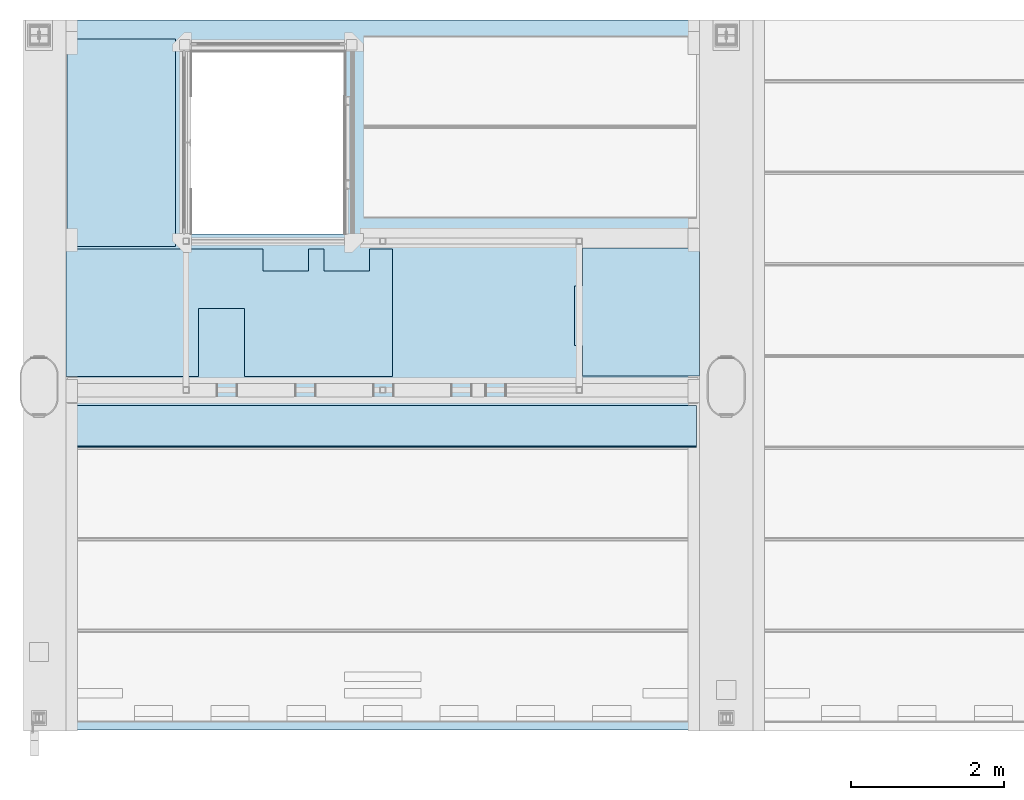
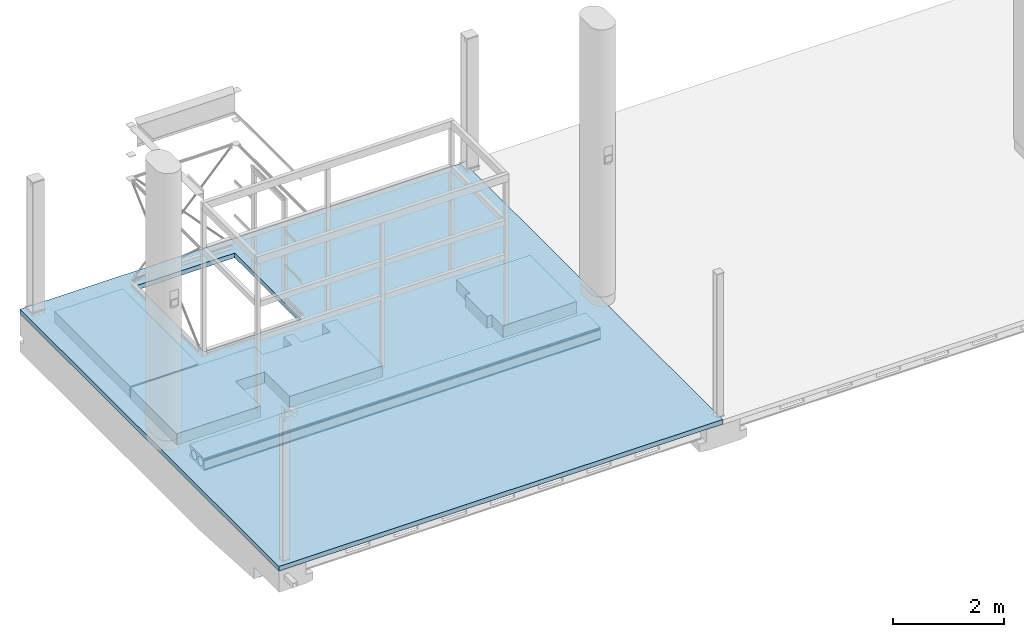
# One storey, part 14 of 15: 5 slabs.
"""IFC2X3 building model written with IfcOpenShell, lengths in millimetres."""

from ifc_helpers import new_model, entity, si_unit, converted_unit, derived_unit, direction, frame, origin_with_axes, place, context, subcontext, project, spatial, faceted_brep, material, type_object, element, save


model = new_model("IFC2X3")

# Units and contexts
model_context = context("Model", 3, precision=0.01, world=frame((0.0, 4.29681676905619e-09, 0.0)), true_north=direction((4.01073788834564e-13, 1.0)))
plan_context = context("Plan", 3, precision=0.01, world=frame((0.0, 4.29681676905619e-09, 0.0)), true_north=direction((4.01073788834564e-13, 1.0)))
body_context = subcontext(model_context, "Body", "Model", "MODEL_VIEW")
ifc_project = project(units=[converted_unit("PLANEANGLEUNIT", "DEGREE", entity("IfcPositiveLengthMeasure", 0.0174532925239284), si_unit("PLANEANGLEUNIT", "RADIAN"), dimensions=[0, 0, 0, 0, 0, 0, 0]), si_unit("AREAUNIT", "SQUARE_METRE"), si_unit("LENGTHUNIT", "METRE", prefix="MILLI"), si_unit("MASSUNIT", "GRAM", prefix="KILO"), si_unit("POWERUNIT", "WATT"), si_unit("PRESSUREUNIT", "PASCAL", prefix="KILO"), si_unit("FORCEUNIT", "NEWTON", prefix="KILO"), si_unit("ELECTRICVOLTAGEUNIT", "VOLT"), si_unit("ELECTRICCURRENTUNIT", "AMPERE"), si_unit("THERMODYNAMICTEMPERATUREUNIT", "DEGREE_CELSIUS"), si_unit("TIMEUNIT", "SECOND"), si_unit("VOLUMEUNIT", "CUBIC_METRE"), derived_unit("LINEARVELOCITYUNIT", [(si_unit("LENGTHUNIT", "METRE"), 1), (si_unit("TIMEUNIT", "SECOND"), -1)]), derived_unit("VOLUMETRICFLOWRATEUNIT", [(si_unit("VOLUMEUNIT", "CUBIC_METRE"), 1), (si_unit("TIMEUNIT", "SECOND"), -1)]), derived_unit("THERMALTRANSMITTANCEUNIT", [(si_unit("POWERUNIT", "WATT"), 1), (si_unit("THERMODYNAMICTEMPERATUREUNIT", "KELVIN"), -1), (si_unit("AREAUNIT", "SQUARE_METRE"), -1)]), derived_unit("SOUNDPRESSUREUNIT", [(si_unit("PRESSUREUNIT", "PASCAL"), 1)])], contexts=[model_context, plan_context])

# Site, building, storey
site_placement = place(None, frame((0.0, -4.29681676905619e-09, 0.0), z_axis=(0.0, 0.0, 1.0), x_axis=(1.0, 0.0, 0.0)))
site = spatial("IfcSite", under=ifc_project, at=site_placement, Name="Gardermoen", CompositionType="ELEMENT")
building_placement = place(site_placement, frame((0.0, 4.29681676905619e-09, 0.0), z_axis=(0.0, 0.0, 1.0), x_axis=(1.0, 0.0, 0.0)))
building = spatial("IfcBuilding", under=site, at=building_placement, Name="TG", CompositionType="ELEMENT")
storey_placement = place(building_placement, origin_with_axes())
storey = spatial("IfcBuildingStorey", under=building, at=storey_placement, Name="F", CompositionType="ELEMENT", Elevation=0.0)

# Slabs
ifc_material = material(Name="CONCRETE/C45/55")
slab_type_1 = type_object("IfcSlabType", Name="HD265", PredefinedType="NOTDEFINED")
slab_1_placement = place(storey_placement, frame((330610.002186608, 462499.991047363, 209897.5), z_axis=(0.0, 0.0, 1.0), x_axis=(-1.0, 0.0, 0.0)))
element("IfcSlab", 1, at=slab_1_placement, inside=storey, type_object=slab_type_1, material=ifc_material, Name="HULLDEKKE", ObjectType="HD265", PredefinedType="FLOOR", context=body_context, shape_type="Brep", body=[
    faceted_brep([(0.0, 50.5927046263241, 77.437899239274), (8220.0, 50.5927046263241, 77.437899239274), (8220.0, 49.9899041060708, 77.7970903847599), (0.0, 49.9899041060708, 77.7970903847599), (0.0, 56.8146759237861, 72.9954971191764), (8220.0, 56.8146759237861, 72.9954971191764), (0.0, 62.6485453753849, 68.0544617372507), (8220.0, 62.6485453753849, 68.0544617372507), (0.0, 68.0544617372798, 62.6485453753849), (8220.0, 68.0544617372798, 62.6485453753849), (0.0, 72.9954971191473, 56.8146759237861), (8220.0, 72.9954971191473, 56.8146759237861), (0.0, 77.4378992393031, 50.5927046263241), (8220.0, 77.4378992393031, 50.5927046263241), (0.0, 81.3513219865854, 44.0251338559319), (8220.0, 81.3513219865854, 44.0251338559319), (0.0, 84.7090327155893, 37.1568267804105), (8220.0, 84.7090327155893, 37.1568267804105), (0.0, 87.4880948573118, 30.0347009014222), (8220.0, 87.4880948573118, 30.0347009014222), (0.0, 89.6695245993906, 22.7074075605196), (8220.0, 89.6695245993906, 22.7074075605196), (0.0, 91.2384205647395, 15.2249996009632), (8220.0, 91.2384205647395, 15.2249996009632), (0.0, 92.1840656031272, 7.63858945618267), (8220.0, 92.1840656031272, 7.63858945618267), (0.0, 92.5, 0.0), (8220.0, 92.5, 0.0), (0.0, 92.1840656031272, -7.63858945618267), (8220.0, 92.1840656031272, -7.63858945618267), (0.0, 91.2384205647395, -15.2249996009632), (8220.0, 91.2384205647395, -15.2249996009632), (0.0, 89.6695245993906, -22.7074075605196), (8220.0, 89.6695245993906, -22.7074075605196), (0.0, 87.4880948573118, -30.0347009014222), (8220.0, 87.4880948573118, -30.0347009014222), (0.0, 84.7090327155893, -37.1568267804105), (8220.0, 84.7090327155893, -37.1568267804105), (0.0, 81.3513219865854, -44.0251338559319), (8220.0, 81.3513219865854, -44.0251338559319), (0.0, 77.4378992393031, -50.5927046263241), (8220.0, 77.4378992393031, -50.5927046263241), (0.0, 72.9954971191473, -56.8146759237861), (8220.0, 72.9954971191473, -56.8146759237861), (0.0, 68.0544617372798, -62.6485453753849), (8220.0, 68.0544617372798, -62.6485453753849), (0.0, 62.6485453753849, -68.0544617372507), (8220.0, 62.6485453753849, -68.0544617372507), (0.0, 56.8146759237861, -72.9954971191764), (8220.0, 56.8146759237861, -72.9954971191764), (0.0, 50.5927046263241, -77.437899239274), (8220.0, 50.5927046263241, -77.437899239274), (0.0, 49.9899041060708, -77.7970903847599), (8220.0, 49.9899041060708, -77.7970903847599), (0.0, 49.9899041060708, -132.5), (8220.0, 49.9899041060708, -132.5), (0.0, 583.380004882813, -132.5), (8220.0, 583.380004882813, -132.5), (0.0, 600.0, -122.5), (8220.0, 600.0, -122.5), (0.0, 600.0, -112.5), (8220.0, 600.0, -112.5), (0.0, 585.0, -102.5), (8220.0, 585.0, -102.5), (0.0, 577.5, 77.5), (8220.0, 577.5, 77.5), (0.0, 570.0, 92.5), (8220.0, 570.0, 92.5), (0.0, 577.5, 107.5), (8220.0, 577.5, 107.5), (0.0, 577.5, 132.5), (8220.0, 577.5, 132.5), (0.0, 216.361410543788, -92.1840656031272), (0.0, 208.775000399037, -91.2384205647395), (8220.0, 208.775000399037, -91.2384205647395), (8220.0, 216.361410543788, -92.1840656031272), (0.0, 201.292592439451, -89.6695245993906), (8220.0, 201.292592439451, -89.6695245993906), (0.0, 193.965299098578, -87.4880948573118), (8220.0, 193.965299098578, -87.4880948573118), (0.0, 186.84317321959, -84.7090327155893), (8220.0, 186.84317321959, -84.7090327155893), (0.0, 179.974866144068, -81.3513219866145), (8220.0, 179.974866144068, -81.3513219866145), (0.0, 173.407295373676, -77.437899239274), (8220.0, 173.407295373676, -77.437899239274), (0.0, 167.185324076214, -72.9954971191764), (8220.0, 167.185324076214, -72.9954971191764), (0.0, 161.351454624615, -68.0544617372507), (8220.0, 161.351454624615, -68.0544617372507), (0.0, 155.94553826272, -62.6485453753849), (8220.0, 155.94553826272, -62.6485453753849), (0.0, 151.004502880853, -56.8146759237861), (8220.0, 151.004502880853, -56.8146759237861), (0.0, 146.562100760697, -50.5927046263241), (8220.0, 146.562100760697, -50.5927046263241), (0.0, 142.648678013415, -44.0251338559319), (8220.0, 142.648678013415, -44.0251338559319), (0.0, 139.290967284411, -37.1568267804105), (8220.0, 139.290967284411, -37.1568267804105), (0.0, 136.511905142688, -30.0347009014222), (8220.0, 136.511905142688, -30.0347009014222), (0.0, 134.330475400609, -22.7074075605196), (8220.0, 134.330475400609, -22.7074075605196), (0.0, 132.761579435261, -15.2249996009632), (8220.0, 132.761579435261, -15.2249996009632), (0.0, 131.815934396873, -7.63858945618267), (8220.0, 131.815934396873, -7.63858945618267), (0.0, 131.5, 0.0), (8220.0, 131.5, 0.0), (0.0, 131.815934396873, 7.63858945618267), (8220.0, 131.815934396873, 7.63858945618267), (0.0, 132.761579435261, 15.2249996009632), (8220.0, 132.761579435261, 15.2249996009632), (0.0, 134.330475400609, 22.7074075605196), (8220.0, 134.330475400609, 22.7074075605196), (0.0, 136.511905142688, 30.0347009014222), (8220.0, 136.511905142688, 30.0347009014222), (0.0, 139.290967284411, 37.1568267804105), (8220.0, 139.290967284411, 37.1568267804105), (0.0, 142.648678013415, 44.0251338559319), (8220.0, 142.648678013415, 44.0251338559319), (0.0, 146.562100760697, 50.5927046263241), (8220.0, 146.562100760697, 50.5927046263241), (0.0, 151.004502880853, 56.8146759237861), (8220.0, 151.004502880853, 56.8146759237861), (0.0, 155.94553826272, 62.6485453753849), (8220.0, 155.94553826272, 62.6485453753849), (0.0, 161.351454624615, 68.0544617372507), (8220.0, 161.351454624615, 68.0544617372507), (0.0, 167.185324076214, 72.9954971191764), (8220.0, 167.185324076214, 72.9954971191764), (0.0, 173.407295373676, 77.437899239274), (8220.0, 173.407295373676, 77.437899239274), (0.0, 179.974866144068, 81.3513219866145), (8220.0, 179.974866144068, 81.3513219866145), (0.0, 186.84317321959, 84.7090327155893), (8220.0, 186.84317321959, 84.7090327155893), (0.0, 193.965299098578, 87.4880948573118), (8220.0, 193.965299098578, 87.4880948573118), (0.0, 201.292592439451, 89.6695245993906), (8220.0, 201.292592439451, 89.6695245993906), (0.0, 208.775000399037, 91.2384205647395), (8220.0, 208.775000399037, 91.2384205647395), (0.0, 216.361410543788, 92.1840656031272), (8220.0, 216.361410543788, 92.1840656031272), (0.0, 224.0, 92.5), (8220.0, 224.0, 92.5), (0.0, 231.638589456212, 92.1840656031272), (8220.0, 231.638589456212, 92.1840656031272), (0.0, 239.224999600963, 91.2384205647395), (8220.0, 239.224999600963, 91.2384205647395), (0.0, 246.707407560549, 89.6695245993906), (8220.0, 246.707407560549, 89.6695245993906), (0.0, 254.034700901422, 87.4880948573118), (8220.0, 254.034700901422, 87.4880948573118), (0.0, 261.15682678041, 84.7090327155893), (8220.0, 261.15682678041, 84.7090327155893), (0.0, 268.025133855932, 81.3513219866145), (8220.0, 268.025133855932, 81.3513219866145), (0.0, 274.592704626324, 77.437899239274), (8220.0, 274.592704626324, 77.437899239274), (0.0, 280.814675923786, 72.9954971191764), (8220.0, 280.814675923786, 72.9954971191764), (0.0, 286.648545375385, 68.0544617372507), (8220.0, 286.648545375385, 68.0544617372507), (0.0, 292.05446173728, 62.6485453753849), (8220.0, 292.05446173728, 62.6485453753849), (0.0, 296.995497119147, 56.8146759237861), (8220.0, 296.995497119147, 56.8146759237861), (0.0, 301.437899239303, 50.5927046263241), (8220.0, 301.437899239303, 50.5927046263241), (0.0, 305.351321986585, 44.0251338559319), (8220.0, 305.351321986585, 44.0251338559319), (0.0, 308.709032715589, 37.1568267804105), (8220.0, 308.709032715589, 37.1568267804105), (0.0, 311.488094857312, 30.0347009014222), (8220.0, 311.488094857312, 30.0347009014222), (0.0, 313.669524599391, 22.7074075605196), (8220.0, 313.669524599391, 22.7074075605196), (0.0, 315.238420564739, 15.2249996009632), (8220.0, 315.238420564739, 15.2249996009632), (0.0, 316.184065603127, 7.63858945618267), (8220.0, 316.184065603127, 7.63858945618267), (0.0, 316.5, 0.0), (8220.0, 316.5, 0.0), (0.0, 316.184065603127, -7.63858945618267), (8220.0, 316.184065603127, -7.63858945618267), (0.0, 315.238420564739, -15.2249996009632), (8220.0, 315.238420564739, -15.2249996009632), (0.0, 313.669524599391, -22.7074075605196), (8220.0, 313.669524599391, -22.7074075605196), (0.0, 311.488094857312, -30.0347009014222), (8220.0, 311.488094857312, -30.0347009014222), (0.0, 308.709032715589, -37.1568267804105), (8220.0, 308.709032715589, -37.1568267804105), (0.0, 305.351321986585, -44.0251338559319), (8220.0, 305.351321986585, -44.0251338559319), (0.0, 301.437899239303, -50.5927046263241), (8220.0, 301.437899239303, -50.5927046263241), (0.0, 296.995497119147, -56.8146759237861), (8220.0, 296.995497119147, -56.8146759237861), (0.0, 292.05446173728, -62.6485453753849), (8220.0, 292.05446173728, -62.6485453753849), (0.0, 286.648545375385, -68.0544617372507), (8220.0, 286.648545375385, -68.0544617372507), (0.0, 280.814675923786, -72.9954971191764), (8220.0, 280.814675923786, -72.9954971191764), (0.0, 274.592704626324, -77.437899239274), (8220.0, 274.592704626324, -77.437899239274), (0.0, 268.025133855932, -81.3513219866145), (8220.0, 268.025133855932, -81.3513219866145), (0.0, 261.15682678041, -84.7090327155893), (8220.0, 261.15682678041, -84.7090327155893), (0.0, 254.034700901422, -87.4880948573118), (8220.0, 254.034700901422, -87.4880948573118), (0.0, 246.707407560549, -89.6695245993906), (8220.0, 246.707407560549, -89.6695245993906), (0.0, 239.224999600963, -91.2384205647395), (8220.0, 239.224999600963, -91.2384205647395), (0.0, 231.638589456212, -92.1840656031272), (8220.0, 231.638589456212, -92.1840656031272), (0.0, 224.0, -92.5), (8220.0, 224.0, -92.5), (0.0, 455.638589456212, -92.1840656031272), (0.0, 448.0, -92.5), (8220.0, 448.0, -92.5), (8220.0, 455.638589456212, -92.1840656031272), (0.0, 463.224999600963, -91.2384205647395), (8220.0, 463.224999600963, -91.2384205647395), (0.0, 470.707407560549, -89.6695245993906), (8220.0, 470.707407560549, -89.6695245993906), (0.0, 478.034700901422, -87.4880948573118), (8220.0, 478.034700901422, -87.4880948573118), (0.0, 485.15682678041, -84.7090327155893), (8220.0, 485.15682678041, -84.7090327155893), (0.0, 492.025133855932, -81.3513219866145), (8220.0, 492.025133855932, -81.3513219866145), (0.0, 498.592704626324, -77.437899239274), (8220.0, 498.592704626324, -77.437899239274), (0.0, 504.814675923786, -72.9954971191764), (8220.0, 504.814675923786, -72.9954971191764), (0.0, 510.648545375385, -68.0544617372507), (8220.0, 510.648545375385, -68.0544617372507), (0.0, 516.05446173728, -62.6485453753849), (8220.0, 516.05446173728, -62.6485453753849), (0.0, 520.995497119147, -56.8146759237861), (8220.0, 520.995497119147, -56.8146759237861), (0.0, 525.437899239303, -50.5927046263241), (8220.0, 525.437899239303, -50.5927046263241), (0.0, 529.351321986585, -44.0251338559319), (8220.0, 529.351321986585, -44.0251338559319), (0.0, 532.709032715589, -37.1568267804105), (8220.0, 532.709032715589, -37.1568267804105), (0.0, 535.488094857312, -30.0347009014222), (8220.0, 535.488094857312, -30.0347009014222), (0.0, 537.669524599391, -22.7074075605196), (8220.0, 537.669524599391, -22.7074075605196), (0.0, 539.238420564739, -15.2249996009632), (8220.0, 539.238420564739, -15.2249996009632), (0.0, 540.184065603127, -7.63858945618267), (8220.0, 540.184065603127, -7.63858945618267), (0.0, 540.5, 0.0), (8220.0, 540.5, 0.0), (0.0, 540.184065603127, 7.63858945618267), (8220.0, 540.184065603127, 7.63858945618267), (0.0, 539.238420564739, 15.2249996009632), (8220.0, 539.238420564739, 15.2249996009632), (0.0, 537.669524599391, 22.7074075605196), (8220.0, 537.669524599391, 22.7074075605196), (0.0, 535.488094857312, 30.0347009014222), (8220.0, 535.488094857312, 30.0347009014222), (0.0, 532.709032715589, 37.1568267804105), (8220.0, 532.709032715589, 37.1568267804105), (0.0, 529.351321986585, 44.0251338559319), (8220.0, 529.351321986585, 44.0251338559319), (0.0, 525.437899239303, 50.5927046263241), (8220.0, 525.437899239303, 50.5927046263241), (0.0, 520.995497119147, 56.8146759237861), (8220.0, 520.995497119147, 56.8146759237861), (0.0, 516.05446173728, 62.6485453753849), (8220.0, 516.05446173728, 62.6485453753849), (0.0, 510.648545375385, 68.0544617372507), (8220.0, 510.648545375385, 68.0544617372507), (0.0, 504.814675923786, 72.9954971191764), (8220.0, 504.814675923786, 72.9954971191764), (0.0, 498.592704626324, 77.437899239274), (8220.0, 498.592704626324, 77.437899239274), (0.0, 492.025133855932, 81.3513219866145), (8220.0, 492.025133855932, 81.3513219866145), (0.0, 485.15682678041, 84.7090327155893), (8220.0, 485.15682678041, 84.7090327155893), (0.0, 478.034700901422, 87.4880948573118), (8220.0, 478.034700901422, 87.4880948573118), (0.0, 470.707407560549, 89.6695245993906), (8220.0, 470.707407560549, 89.6695245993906), (0.0, 463.224999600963, 91.2384205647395), (8220.0, 463.224999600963, 91.2384205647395), (0.0, 455.638589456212, 92.1840656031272), (8220.0, 455.638589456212, 92.1840656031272), (0.0, 448.0, 92.5), (8220.0, 448.0, 92.5), (0.0, 440.361410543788, 92.1840656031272), (8220.0, 440.361410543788, 92.1840656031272), (0.0, 432.775000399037, 91.2384205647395), (8220.0, 432.775000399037, 91.2384205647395), (0.0, 425.292592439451, 89.6695245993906), (8220.0, 425.292592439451, 89.6695245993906), (0.0, 417.965299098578, 87.4880948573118), (8220.0, 417.965299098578, 87.4880948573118), (0.0, 410.84317321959, 84.7090327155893), (8220.0, 410.84317321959, 84.7090327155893), (0.0, 403.974866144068, 81.3513219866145), (8220.0, 403.974866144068, 81.3513219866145), (0.0, 397.407295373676, 77.437899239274), (8220.0, 397.407295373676, 77.437899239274), (0.0, 391.185324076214, 72.9954971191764), (8220.0, 391.185324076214, 72.9954971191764), (0.0, 385.351454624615, 68.0544617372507), (8220.0, 385.351454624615, 68.0544617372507), (0.0, 379.94553826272, 62.6485453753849), (8220.0, 379.94553826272, 62.6485453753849), (0.0, 375.004502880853, 56.8146759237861), (8220.0, 375.004502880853, 56.8146759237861), (0.0, 370.562100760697, 50.5927046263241), (8220.0, 370.562100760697, 50.5927046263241), (0.0, 366.648678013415, 44.0251338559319), (8220.0, 366.648678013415, 44.0251338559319), (0.0, 363.290967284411, 37.1568267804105), (8220.0, 363.290967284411, 37.1568267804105), (0.0, 360.511905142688, 30.0347009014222), (8220.0, 360.511905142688, 30.0347009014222), (0.0, 358.330475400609, 22.7074075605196), (8220.0, 358.330475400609, 22.7074075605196), (0.0, 356.761579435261, 15.2249996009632), (8220.0, 356.761579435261, 15.2249996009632), (0.0, 355.815934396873, 7.63858945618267), (8220.0, 355.815934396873, 7.63858945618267), (0.0, 355.5, 0.0), (8220.0, 355.5, 0.0), (0.0, 355.815934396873, -7.63858945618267), (8220.0, 355.815934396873, -7.63858945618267), (0.0, 356.761579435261, -15.2249996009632), (8220.0, 356.761579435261, -15.2249996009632), (0.0, 358.330475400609, -22.7074075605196), (8220.0, 358.330475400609, -22.7074075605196), (0.0, 360.511905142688, -30.0347009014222), (8220.0, 360.511905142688, -30.0347009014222), (0.0, 363.290967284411, -37.1568267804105), (8220.0, 363.290967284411, -37.1568267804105), (0.0, 366.648678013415, -44.0251338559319), (8220.0, 366.648678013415, -44.0251338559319), (0.0, 370.562100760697, -50.5927046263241), (8220.0, 370.562100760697, -50.5927046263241), (0.0, 375.004502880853, -56.8146759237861), (8220.0, 375.004502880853, -56.8146759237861), (0.0, 379.94553826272, -62.6485453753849), (8220.0, 379.94553826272, -62.6485453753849), (0.0, 385.351454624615, -68.0544617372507), (8220.0, 385.351454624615, -68.0544617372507), (0.0, 391.185324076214, -72.9954971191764), (8220.0, 391.185324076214, -72.9954971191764), (0.0, 397.407295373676, -77.437899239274), (8220.0, 397.407295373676, -77.437899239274), (0.0, 403.974866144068, -81.3513219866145), (8220.0, 403.974866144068, -81.3513219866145), (0.0, 410.84317321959, -84.7090327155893), (8220.0, 410.84317321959, -84.7090327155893), (0.0, 417.965299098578, -87.4880948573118), (8220.0, 417.965299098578, -87.4880948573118), (0.0, 425.292592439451, -89.6695245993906), (8220.0, 425.292592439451, -89.6695245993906), (0.0, 432.775000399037, -91.2384205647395), (8220.0, 432.775000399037, -91.2384205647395), (0.0, 440.361410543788, -92.1840656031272), (8220.0, 440.361410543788, -92.1840656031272), (8220.0, 49.9899041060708, 132.5), (0.0, 49.9899041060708, 132.5)], [[[0, 1, 2, 3]], [[0, 4, 5, 1]], [[4, 6, 7, 5]], [[6, 8, 9, 7]], [[8, 10, 11, 9]], [[10, 12, 13, 11]], [[12, 14, 15, 13]], [[14, 16, 17, 15]], [[16, 18, 19, 17]], [[18, 20, 21, 19]], [[20, 22, 23, 21]], [[22, 24, 25, 23]], [[24, 26, 27, 25]], [[26, 28, 29, 27]], [[28, 30, 31, 29]], [[30, 32, 33, 31]], [[32, 34, 35, 33]], [[34, 36, 37, 35]], [[36, 38, 39, 37]], [[38, 40, 41, 39]], [[40, 42, 43, 41]], [[42, 44, 45, 43]], [[44, 46, 47, 45]], [[46, 48, 49, 47]], [[48, 50, 51, 49]], [[51, 50, 52, 53]], [[54, 55, 53, 52]], [[56, 57, 55, 54]], [[56, 58, 59, 57]], [[58, 60, 61, 59]], [[60, 62, 63, 61]], [[62, 64, 65, 63]], [[64, 66, 67, 65]], [[66, 68, 69, 67]], [[68, 70, 71, 69]], [[72, 73, 74, 75]], [[73, 76, 77, 74]], [[76, 78, 79, 77]], [[78, 80, 81, 79]], [[80, 82, 83, 81]], [[82, 84, 85, 83]], [[84, 86, 87, 85]], [[86, 88, 89, 87]], [[88, 90, 91, 89]], [[90, 92, 93, 91]], [[92, 94, 95, 93]], [[94, 96, 97, 95]], [[96, 98, 99, 97]], [[98, 100, 101, 99]], [[100, 102, 103, 101]], [[102, 104, 105, 103]], [[104, 106, 107, 105]], [[106, 108, 109, 107]], [[108, 110, 111, 109]], [[110, 112, 113, 111]], [[112, 114, 115, 113]], [[114, 116, 117, 115]], [[116, 118, 119, 117]], [[118, 120, 121, 119]], [[120, 122, 123, 121]], [[122, 124, 125, 123]], [[124, 126, 127, 125]], [[126, 128, 129, 127]], [[128, 130, 131, 129]], [[130, 132, 133, 131]], [[132, 134, 135, 133]], [[134, 136, 137, 135]], [[136, 138, 139, 137]], [[138, 140, 141, 139]], [[140, 142, 143, 141]], [[142, 144, 145, 143]], [[144, 146, 147, 145]], [[146, 148, 149, 147]], [[148, 150, 151, 149]], [[150, 152, 153, 151]], [[152, 154, 155, 153]], [[154, 156, 157, 155]], [[156, 158, 159, 157]], [[158, 160, 161, 159]], [[160, 162, 163, 161]], [[162, 164, 165, 163]], [[164, 166, 167, 165]], [[166, 168, 169, 167]], [[168, 170, 171, 169]], [[170, 172, 173, 171]], [[172, 174, 175, 173]], [[174, 176, 177, 175]], [[176, 178, 179, 177]], [[178, 180, 181, 179]], [[180, 182, 183, 181]], [[182, 184, 185, 183]], [[184, 186, 187, 185]], [[186, 188, 189, 187]], [[188, 190, 191, 189]], [[190, 192, 193, 191]], [[192, 194, 195, 193]], [[194, 196, 197, 195]], [[196, 198, 199, 197]], [[198, 200, 201, 199]], [[200, 202, 203, 201]], [[202, 204, 205, 203]], [[204, 206, 207, 205]], [[206, 208, 209, 207]], [[208, 210, 211, 209]], [[210, 212, 213, 211]], [[212, 214, 215, 213]], [[214, 216, 217, 215]], [[216, 218, 219, 217]], [[218, 220, 221, 219]], [[220, 222, 223, 221]], [[224, 225, 226, 227]], [[228, 224, 227, 229]], [[230, 228, 229, 231]], [[232, 230, 231, 233]], [[234, 232, 233, 235]], [[236, 234, 235, 237]], [[238, 236, 237, 239]], [[240, 238, 239, 241]], [[242, 240, 241, 243]], [[244, 242, 243, 245]], [[246, 244, 245, 247]], [[248, 246, 247, 249]], [[250, 248, 249, 251]], [[252, 250, 251, 253]], [[254, 252, 253, 255]], [[256, 254, 255, 257]], [[258, 256, 257, 259]], [[260, 258, 259, 261]], [[262, 260, 261, 263]], [[264, 262, 263, 265]], [[266, 264, 265, 267]], [[268, 266, 267, 269]], [[270, 268, 269, 271]], [[272, 270, 271, 273]], [[274, 272, 273, 275]], [[276, 274, 275, 277]], [[278, 276, 277, 279]], [[280, 278, 279, 281]], [[282, 280, 281, 283]], [[284, 282, 283, 285]], [[286, 284, 285, 287]], [[288, 286, 287, 289]], [[290, 288, 289, 291]], [[292, 290, 291, 293]], [[294, 292, 293, 295]], [[296, 294, 295, 297]], [[298, 296, 297, 299]], [[300, 298, 299, 301]], [[302, 300, 301, 303]], [[304, 302, 303, 305]], [[306, 304, 305, 307]], [[308, 306, 307, 309]], [[310, 308, 309, 311]], [[312, 310, 311, 313]], [[314, 312, 313, 315]], [[316, 314, 315, 317]], [[318, 316, 317, 319]], [[320, 318, 319, 321]], [[322, 320, 321, 323]], [[324, 322, 323, 325]], [[326, 324, 325, 327]], [[328, 326, 327, 329]], [[330, 328, 329, 331]], [[332, 330, 331, 333]], [[334, 332, 333, 335]], [[336, 334, 335, 337]], [[338, 336, 337, 339]], [[340, 338, 339, 341]], [[342, 340, 341, 343]], [[344, 342, 343, 345]], [[346, 344, 345, 347]], [[348, 346, 347, 349]], [[350, 348, 349, 351]], [[352, 350, 351, 353]], [[354, 352, 353, 355]], [[356, 354, 355, 357]], [[358, 356, 357, 359]], [[360, 358, 359, 361]], [[362, 360, 361, 363]], [[364, 362, 363, 365]], [[366, 364, 365, 367]], [[368, 366, 367, 369]], [[370, 368, 369, 371]], [[372, 370, 371, 373]], [[374, 372, 373, 375]], [[225, 374, 375, 226]], [[1, 5, 7, 9, 11, 13, 15, 17, 19, 21, 23, 25, 27, 29, 31, 33, 35, 37, 39, 41, 43, 45, 47, 49, 51, 53, 55, 57, 59, 61, 63, 65, 67, 69, 71, 376, 2], [373, 371, 369, 367, 365, 363, 361, 359, 357, 355, 353, 351, 349, 347, 345, 343, 341, 339, 337, 335, 333, 331, 329, 327, 325, 323, 321, 319, 317, 315, 313, 311, 309, 307, 305, 303, 301, 299, 297, 295, 293, 291, 289, 287, 285, 283, 281, 279, 277, 275, 273, 271, 269, 267, 265, 263, 261, 259, 257, 255, 253, 251, 249, 247, 245, 243, 241, 239, 237, 235, 233, 231, 229, 227, 226, 375], [74, 77, 79, 81, 83, 85, 87, 89, 91, 93, 95, 97, 99, 101, 103, 105, 107, 109, 111, 113, 115, 117, 119, 121, 123, 125, 127, 129, 131, 133, 135, 137, 139, 141, 143, 145, 147, 149, 151, 153, 155, 157, 159, 161, 163, 165, 167, 169, 171, 173, 175, 177, 179, 181, 183, 185, 187, 189, 191, 193, 195, 197, 199, 201, 203, 205, 207, 209, 211, 213, 215, 217, 219, 221, 223, 75]], [[222, 72, 75, 223]], [[70, 68, 66, 64, 62, 60, 58, 56, 54, 52, 50, 48, 46, 44, 42, 40, 38, 36, 34, 32, 30, 28, 26, 24, 22, 20, 18, 16, 14, 12, 10, 8, 6, 4, 0, 3, 377], [220, 218, 216, 214, 212, 210, 208, 206, 204, 202, 200, 198, 196, 194, 192, 190, 188, 186, 184, 182, 180, 178, 176, 174, 172, 170, 168, 166, 164, 162, 160, 158, 156, 154, 152, 150, 148, 146, 144, 142, 140, 138, 136, 134, 132, 130, 128, 126, 124, 122, 120, 118, 116, 114, 112, 110, 108, 106, 104, 102, 100, 98, 96, 94, 92, 90, 88, 86, 84, 82, 80, 78, 76, 73, 72, 222], [224, 228, 230, 232, 234, 236, 238, 240, 242, 244, 246, 248, 250, 252, 254, 256, 258, 260, 262, 264, 266, 268, 270, 272, 274, 276, 278, 280, 282, 284, 286, 288, 290, 292, 294, 296, 298, 300, 302, 304, 306, 308, 310, 312, 314, 316, 318, 320, 322, 324, 326, 328, 330, 332, 334, 336, 338, 340, 342, 344, 346, 348, 350, 352, 354, 356, 358, 360, 362, 364, 366, 368, 370, 372, 374, 225]], [[71, 70, 377, 376]], [[3, 2, 376, 377]]]),
])
slab_type_2 = type_object("IfcSlabType", Name="265*1635", PredefinedType="NOTDEFINED")
slab_2_placement = place(storey_placement, frame((329115.0, 464514.82, 209897.5), z_axis=(0.0, -1.0, 0.0), x_axis=(1.0, 0.0, 0.0)))
element("IfcSlab", 2, at=slab_2_placement, inside=storey, type_object=slab_type_2, material=ifc_material, Name="PREFABDEKKE", ObjectType="265*1635", PredefinedType="FLOOR", context=body_context, shape_type="Brep", body=[
    faceted_brep([(5.82076609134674e-11, -132.5, -5.82076609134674e-11), (0.0, -132.5, 500.0), (0.0, 132.5, 500.0), (5.82076609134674e-11, 132.5, -5.82076609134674e-11), (-100.0, -132.5, 500.0), (-100.0, 132.5, 500.0), (-100.0, -132.5, 1279.81994628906), (-100.0, 132.5, 1279.81994628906), (0.0, -132.5, 1279.81994628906), (0.0, 132.5, 1279.81994628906), (0.0, -132.5, 1679.8193359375), (0.0, 132.5, 1679.8193359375), (1534.99975585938, -132.5, 1679.8193359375), (1534.99975585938, 132.5, 1679.8193359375), (1534.99975585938, -132.5, 0.0), (1534.99975585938, 132.5, 0.0)], [[[0, 1, 2, 3]], [[1, 4, 5, 2]], [[4, 6, 7, 5]], [[6, 8, 9, 7]], [[8, 10, 11, 9]], [[10, 12, 13, 11]], [[12, 14, 15, 13]], [[14, 0, 3, 15]], [[5, 7, 9, 11, 13, 15, 3, 2]], [[14, 12, 10, 8, 6, 4, 1, 0]]]),
])
slab_type_3 = type_object("IfcSlabType", Name="250*1420", PredefinedType="NOTDEFINED")
slab_3_placement = place(storey_placement, frame((322365.014895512, 467252.500402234, 209910.0), z_axis=(1.0, 0.0, 0.0), x_axis=(0.0, -1.0, 0.0)))
element("IfcSlab", 3, at=slab_3_placement, inside=storey, type_object=slab_type_3, material=ifc_material, Name="PREFABDEKKE", ObjectType="250*1420", PredefinedType="FLOOR", context=body_context, shape_type="Brep", body=[
    faceted_brep([(0.0, -125.0, -5.82076609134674e-11), (0.0, -125.0, 1420.01342773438), (0.0, 125.0, 1420.01342773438), (0.0, 125.0, -5.82076609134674e-11), (2719.99951171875, -125.0, 1420.01342773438), (2719.99951171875, 125.0, 1420.01342773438), (2720.00048828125, -125.0, 0.0), (2720.00048828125, 125.0, 0.0)], [[[0, 1, 2, 3]], [[1, 4, 5, 2]], [[4, 6, 7, 5]], [[6, 0, 3, 7]], [[5, 7, 3, 2]], [[6, 4, 1, 0]]]),
])
slab_type_4 = type_object("IfcSlabType", Name="250*1670", PredefinedType="NOTDEFINED")
slab_4_placement = place(storey_placement, frame((326630.0, 464502.493206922, 209910.0), z_axis=(-1.0, 0.0, 0.0), x_axis=(0.0, -1.0, 0.0)))
element("IfcSlab", 4, at=slab_4_placement, inside=storey, type_object=slab_type_4, material=ifc_material, Name="PREFABDEKKE", ObjectType="250*1670", PredefinedType="FLOOR", context=body_context, shape_type="Brep", body=[
    faceted_brep([(1669.99267578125, -125.0, 1940.0), (1669.99267578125, 125.0, 1940.0), (777.493206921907, 125.0, 1940.0), (777.493206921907, -125.0, 1940.0), (777.493206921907, 125.0, 2540.0), (777.493206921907, -125.0, 2540.0), (1669.99267578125, -125.0, 2540.0), (1669.99267578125, 125.0, 2540.0), (1669.99267578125, -125.0, 0.0), (0.0, -125.0, -5.82076609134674e-11), (0.0, 125.0, -5.82076609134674e-11), (1669.99267578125, 125.0, 0.0), (-0.000667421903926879, -125.0, 299.982663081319), (-0.000667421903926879, 125.0, 299.982663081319), (287.6732069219, -125.0, 299.982663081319), (287.6732069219, 125.0, 299.982663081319), (287.6732069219, -125.0, 899.982663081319), (287.6732069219, 125.0, 899.982663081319), (-0.00200234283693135, -125.0, 899.982663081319), (-0.00200234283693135, 125.0, 899.982663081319), (-0.00244731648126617, -125.0, 1099.98266308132), (-0.00244731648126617, 125.0, 1099.98266308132), (287.6732069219, -125.0, 1099.98266308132), (287.6732069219, 125.0, 1099.98266308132), (287.6732069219, -125.0, 1699.98266308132), (287.6732069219, 125.0, 1699.98266308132), (-0.00378223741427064, -125.0, 1699.98266308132), (-0.00378223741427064, 125.0, 1699.98266308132), (-0.009521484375, -125.0, 4279.572265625), (-0.009521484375, 125.0, 4279.572265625), (1669.99267578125, -125.0, 4279.572265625), (1669.99267578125, 125.0, 4279.572265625)], [[[0, 1, 2, 3]], [[3, 2, 4, 5]], [[6, 5, 4, 7]], [[8, 9, 10, 11]], [[10, 9, 12, 13]], [[14, 15, 13, 12]], [[16, 17, 15, 14]], [[18, 19, 17, 16]], [[20, 21, 19, 18]], [[22, 23, 21, 20]], [[24, 25, 23, 22]], [[26, 27, 25, 24]], [[28, 29, 27, 26]], [[28, 30, 31, 29]], [[31, 30, 6, 7]], [[2, 1, 11, 10, 13, 15, 17, 19, 21, 23, 25, 27, 29, 31, 7, 4]], [[8, 11, 1, 0]], [[30, 28, 26, 24, 22, 20, 18, 16, 14, 12, 9, 8, 0, 3, 5, 6]]]),
])
slab_type_5 = type_object("IfcSlabType", Name="100*26610", PredefinedType="NOTDEFINED")
slab_5_placement = place(storey_placement, frame((331000.0, 484809.995625, 210080.0), z_axis=(0.0, -1.0, 0.0), x_axis=(-1.0, 0.0, 0.0)))
element("IfcSlab", 5, at=slab_5_placement, inside=storey, type_object=slab_type_5, Name="PÅSTØP", ObjectType="100*26610", PredefinedType="FLOOR", context=body_context, shape_type="Brep", body=[
    faceted_brep([(4988.00531197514, -50.0, 17715.1661035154), (4988.00531197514, 50.0, 17715.1661035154), (7012.15716744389, 50.0, 17715.1661035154), (7012.15716744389, -50.0, 17715.1661035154), (4988.00531197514, -50.0, 20115.1651269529), (4988.00531197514, 50.0, 20115.1651269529), (7012.15716744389, -50.0, 20115.1651269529), (7012.15716744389, 50.0, 20115.1651269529), (9205.24999999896, 50.0, 26610.0), (9205.24999999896, -50.0, 26610.0), (0.0, -50.0, 26610.0), (0.0, 50.0, 26610.0), (-1.01715802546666e-10, -50.0, 17309.9956250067), (6.10294815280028e-11, 50.0, 17309.9956250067), (9205.24999999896, -50.0, 17309.9956250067), (9205.24999999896, 50.0000000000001, 17309.9956250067)], [[[0, 1, 2, 3]], [[4, 5, 1, 0]], [[6, 7, 5, 4]], [[3, 2, 7, 6]], [[8, 9, 10, 11]], [[12, 13, 11, 10]], [[9, 14, 12, 10], [3, 6, 4, 0]], [[13, 15, 8, 11], [5, 7, 2, 1]], [[15, 13, 12, 14]], [[14, 9, 8, 15]]], orient=[[False], [False], [False], [False], [False], [False], [False, False], [False, False], [False], [False]]),
])

save(model, "model.ifc")
